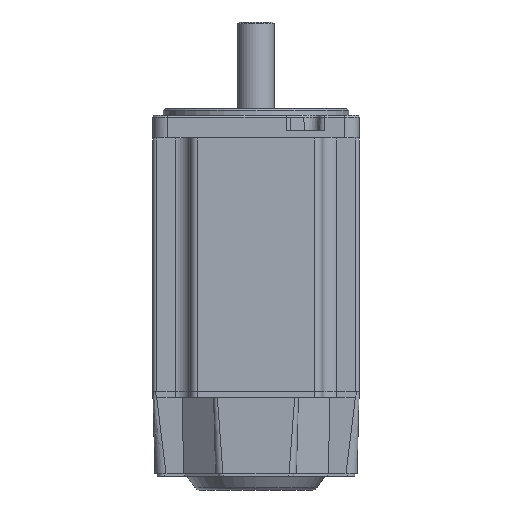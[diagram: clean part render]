
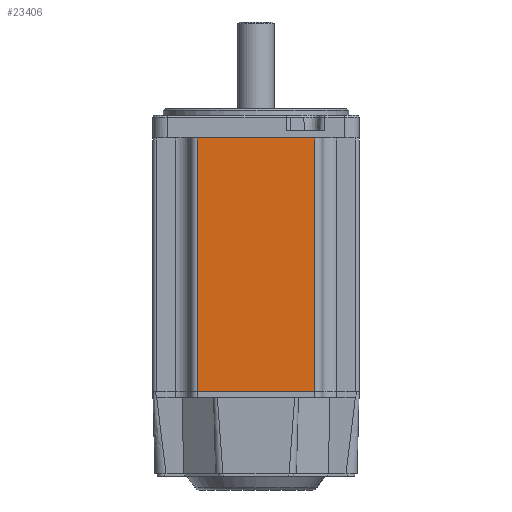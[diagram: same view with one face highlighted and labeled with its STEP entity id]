
A CAD part, front view. The second image highlights one B-rep face of the part: STEP entity #23406.
In plain terms, the highlighted planar face has unit normal (0, -1, 0).
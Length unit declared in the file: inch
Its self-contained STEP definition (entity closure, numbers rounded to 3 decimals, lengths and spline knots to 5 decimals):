
#21517=CARTESIAN_POINT('',(0.995,-1.75,-4.3));
#21518=VERTEX_POINT('',#21517);
#21525=CARTESIAN_POINT('',(-0.995,-1.75,-4.3));
#21526=VERTEX_POINT('',#21525);
#21527=CARTESIAN_POINT('',(-0.995,-1.75,-4.3));
#21528=DIRECTION('',(1.0,0.0,0.0));
#21529=VECTOR('',#21528,1.99);
#21530=LINE('',#21527,#21529);
#21531=EDGE_CURVE('',#21526,#21518,#21530,.T.);
#23364=CARTESIAN_POINT('',(-0.995,-1.75,0.0));
#23365=VERTEX_POINT('',#23364);
#23366=CARTESIAN_POINT('',(-0.995,-1.75,-4.3));
#23367=DIRECTION('',(0.0,0.0,1.0));
#23368=VECTOR('',#23367,4.3);
#23369=LINE('',#23366,#23368);
#23370=EDGE_CURVE('',#21526,#23365,#23369,.T.);
#23383=CARTESIAN_POINT('',(1.5,-1.75,0.0));
#23384=DIRECTION('',(0.0,-1.0,0.0));
#23385=DIRECTION('',(0.0,0.0,-1.0));
#23386=AXIS2_PLACEMENT_3D('',#23383,#23384,#23385);
#23387=PLANE('',#23386);
#23388=ORIENTED_EDGE('',*,*,#21531,.T.);
#23389=CARTESIAN_POINT('',(0.995,-1.75,0.0));
#23390=VERTEX_POINT('',#23389);
#23391=CARTESIAN_POINT('',(0.995,-1.75,0.0));
#23392=DIRECTION('',(0.0,0.0,-1.0));
#23393=VECTOR('',#23392,4.3);
#23394=LINE('',#23391,#23393);
#23395=EDGE_CURVE('',#23390,#21518,#23394,.T.);
#23396=ORIENTED_EDGE('',*,*,#23395,.F.);
#23397=CARTESIAN_POINT('',(-0.995,-1.75,0.0));
#23398=DIRECTION('',(1.0,0.0,0.0));
#23399=VECTOR('',#23398,1.99);
#23400=LINE('',#23397,#23399);
#23401=EDGE_CURVE('',#23365,#23390,#23400,.T.);
#23402=ORIENTED_EDGE('',*,*,#23401,.F.);
#23403=ORIENTED_EDGE('',*,*,#23370,.F.);
#23404=EDGE_LOOP('',(#23388,#23396,#23402,#23403));
#23405=FACE_OUTER_BOUND('',#23404,.T.);
#23406=ADVANCED_FACE('',(#23405),#23387,.T.);
